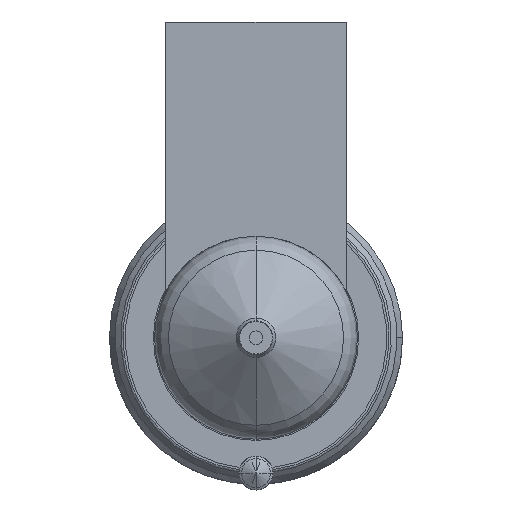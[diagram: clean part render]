
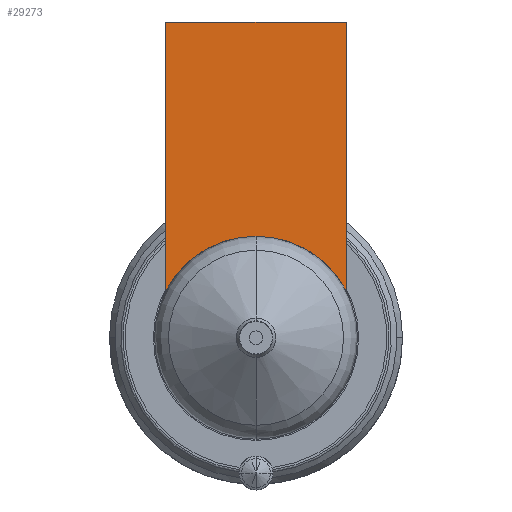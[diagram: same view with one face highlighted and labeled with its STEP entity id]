
A CAD part, front view. The second image highlights one B-rep face of the part: STEP entity #29273.
In plain terms, the highlighted planar face has unit normal (0, -1, 0).
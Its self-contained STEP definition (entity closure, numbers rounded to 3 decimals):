
#28620=DIRECTION('',(1.,0.,0.));
#28621=VECTOR('',#28620,16.);
#28622=CARTESIAN_POINT('',(-8.,-54.,28.));
#28623=LINE('',#28622,#28621);
#28628=CARTESIAN_POINT('',(0.,-54.,0.));
#28629=DIRECTION('',(0.,-1.,0.));
#28630=DIRECTION('',(0.889,0.,0.458));
#28631=AXIS2_PLACEMENT_3D('',#28628,#28629,#28630);
#28636=CARTESIAN_POINT('',(0.,-54.,0.));
#28637=DIRECTION('',(0.,-1.,0.));
#28638=DIRECTION('',(0.,0.,1.));
#28639=AXIS2_PLACEMENT_3D('',#28636,#28637,#28638);
#28665=DIRECTION('',(0.,0.,-1.));
#28666=VECTOR('',#28665,23.877);
#28667=CARTESIAN_POINT('',(-8.,-54.,28.));
#28668=LINE('',#28667,#28666);
#29145=DIRECTION('',(0.,0.,-1.));
#29146=VECTOR('',#29145,23.877);
#29147=CARTESIAN_POINT('',(8.,-54.,28.));
#29148=LINE('',#29147,#29146);
#29198=CARTESIAN_POINT('',(-8.,-54.,28.));
#29199=VERTEX_POINT('',#29198);
#29204=CARTESIAN_POINT('',(8.,-54.,28.));
#29205=VERTEX_POINT('',#29204);
#29208=CARTESIAN_POINT('',(-8.,-54.,4.123));
#29209=VERTEX_POINT('',#29208);
#29212=CARTESIAN_POINT('',(8.,-54.,4.123));
#29213=VERTEX_POINT('',#29212);
#29254=CARTESIAN_POINT('',(0.,-54.,9.));
#29255=VERTEX_POINT('',#29254);
#29256=CARTESIAN_POINT('',(0.,-54.,9.));
#29257=DIRECTION('',(0.,1.,0.));
#29258=DIRECTION('',(0.,0.,-1.));
#29259=AXIS2_PLACEMENT_3D('',#29256,#29257,#29258);
#29260=PLANE('',#29259);
#29262=ORIENTED_EDGE('',*,*,#29261,.F.);
#29264=ORIENTED_EDGE('',*,*,#29263,.T.);
#29266=ORIENTED_EDGE('',*,*,#29265,.T.);
#29268=ORIENTED_EDGE('',*,*,#29267,.T.);
#29270=ORIENTED_EDGE('',*,*,#29269,.T.);
#29271=EDGE_LOOP('',(#29262,#29264,#29266,#29268,#29270));
#29272=FACE_OUTER_BOUND('',#29271,.F.);
#29273=ADVANCED_FACE('',(#29272),#29260,.F.);
#28632=CIRCLE('',#28631,9.);
#28640=CIRCLE('',#28639,9.);
#29261=EDGE_CURVE('',#29199,#29209,#28668,.T.);
#29263=EDGE_CURVE('',#29199,#29205,#28623,.T.);
#29265=EDGE_CURVE('',#29205,#29213,#29148,.T.);
#29267=EDGE_CURVE('',#29213,#29255,#28632,.T.);
#29269=EDGE_CURVE('',#29255,#29209,#28640,.T.);
